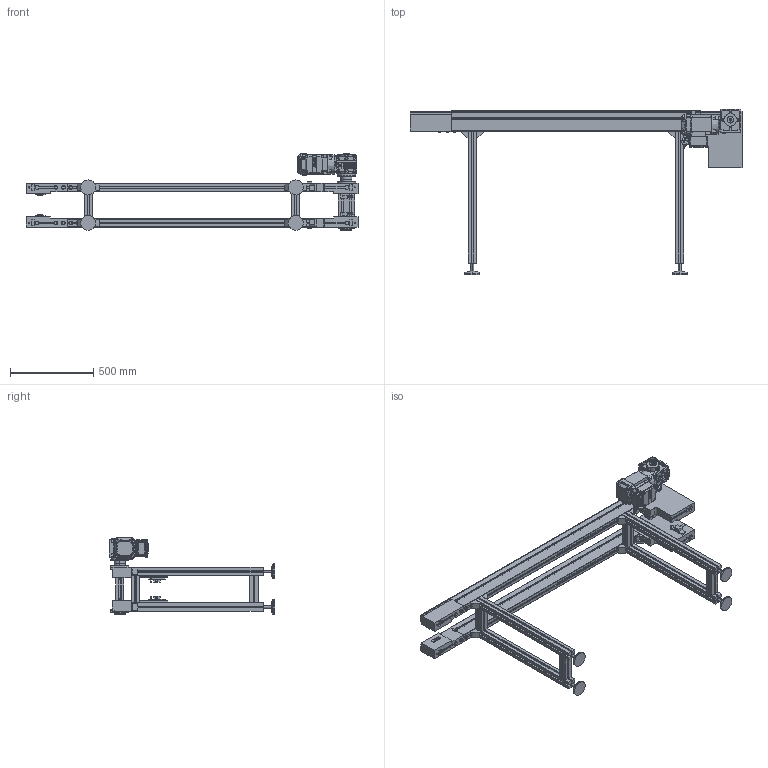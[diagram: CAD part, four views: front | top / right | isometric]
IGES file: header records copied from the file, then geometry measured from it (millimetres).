
Global section: file name: MM; native system: 1; preprocessor: 0.01
Bounding box: 2000 x 996.5 x 466.8 mm (x, y, z)
Surface area: 4305078.5 mm2 (no closed solid volume)
Topology: 0 solids, 0 shells, 1976 faces, 10509 edges, 10488 vertices
Faces by surface type: plane 1341, revolution 578, bspline 57
